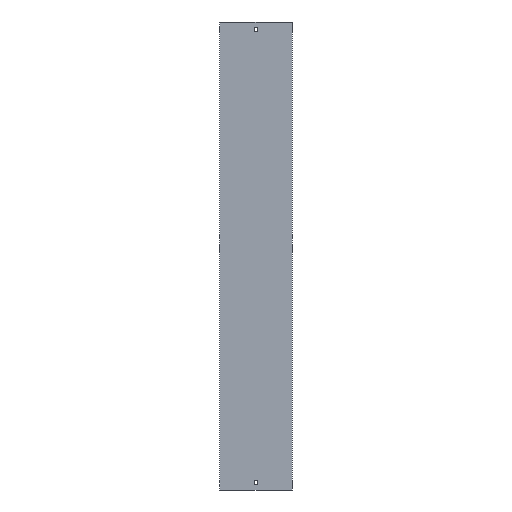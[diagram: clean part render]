
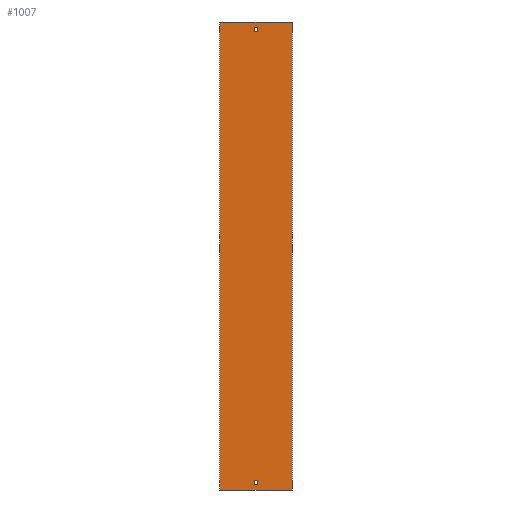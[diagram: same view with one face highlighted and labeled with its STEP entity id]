
A CAD part, front view. The second image highlights one B-rep face of the part: STEP entity #1007.
In plain terms, the highlighted planar face has unit normal (0, -1, 0).
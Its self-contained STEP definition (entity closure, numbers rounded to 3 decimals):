
#14 = VERTEX_POINT ( 'NONE', #1069 ) ;
#26 = VECTOR ( 'NONE', #495, 1000. ) ;
#40 = CARTESIAN_POINT ( 'NONE',  ( 3.25, 0., -479. ) ) ;
#41 = VECTOR ( 'NONE', #1097, 1000. ) ;
#48 = LINE ( 'NONE', #402, #431 ) ;
#55 = EDGE_CURVE ( 'NONE', #254, #964, #318, .T. ) ;
#58 = AXIS2_PLACEMENT_3D ( 'NONE', #342, #354, #503 ) ;
#79 = DIRECTION ( 'NONE',  ( 0., 0., 1. ) ) ;
#90 = LINE ( 'NONE', #618, #207 ) ;
#110 = LINE ( 'NONE', #815, #145 ) ;
#120 = VERTEX_POINT ( 'NONE', #135 ) ;
#123 = EDGE_CURVE ( 'NONE', #770, #896, #48, .T. ) ;
#130 = EDGE_CURVE ( 'NONE', #896, #949, #493, .T. ) ;
#135 = CARTESIAN_POINT ( 'NONE',  ( 77., 0., 500. ) ) ;
#140 = DIRECTION ( 'NONE',  ( -1., 0., 0. ) ) ;
#142 = LINE ( 'NONE', #1093, #727 ) ;
#145 = VECTOR ( 'NONE', #464, 1000. ) ;
#165 = ORIENTED_EDGE ( 'NONE', *, *, #629, .T. ) ;
#173 = CARTESIAN_POINT ( 'NONE',  ( -77., 0., 500. ) ) ;
#207 = VECTOR ( 'NONE', #785, 1000. ) ;
#220 = FACE_BOUND ( 'NONE', #365, .T. ) ;
#226 = ORIENTED_EDGE ( 'NONE', *, *, #55, .T. ) ;
#233 = CARTESIAN_POINT ( 'NONE',  ( -3.25, 0., 488. ) ) ;
#244 = VERTEX_POINT ( 'NONE', #947 ) ;
#246 = CARTESIAN_POINT ( 'NONE',  ( 3.25, 0., 488. ) ) ;
#252 = PLANE ( 'NONE',  #58 ) ;
#254 = VERTEX_POINT ( 'NONE', #953 ) ;
#272 = CARTESIAN_POINT ( 'NONE',  ( -3.25, 0., -488. ) ) ;
#312 = VERTEX_POINT ( 'NONE', #961 ) ;
#316 = LINE ( 'NONE', #664, #26 ) ;
#318 = LINE ( 'NONE', #929, #41 ) ;
#342 = CARTESIAN_POINT ( 'NONE',  ( -77., 0., 500. ) ) ;
#348 = CARTESIAN_POINT ( 'NONE',  ( 3.25, 0., 479. ) ) ;
#354 = DIRECTION ( 'NONE',  ( 0., 1., 0. ) ) ;
#365 = EDGE_LOOP ( 'NONE', ( #712, #460, #413, #978 ) ) ;
#383 = EDGE_CURVE ( 'NONE', #14, #719, #110, .T. ) ;
#402 = CARTESIAN_POINT ( 'NONE',  ( -3.25, 0., 488. ) ) ;
#413 = ORIENTED_EDGE ( 'NONE', *, *, #123, .F. ) ;
#431 = VECTOR ( 'NONE', #140, 1000. ) ;
#443 = VERTEX_POINT ( 'NONE', #722 ) ;
#460 = ORIENTED_EDGE ( 'NONE', *, *, #130, .F. ) ;
#464 = DIRECTION ( 'NONE',  ( 0., 0., -1. ) ) ;
#493 = LINE ( 'NONE', #749, #1008 ) ;
#495 = DIRECTION ( 'NONE',  ( 1., 0., 0. ) ) ;
#503 = DIRECTION ( 'NONE',  ( -1., 0., 0. ) ) ;
#514 = LINE ( 'NONE', #792, #633 ) ;
#569 = EDGE_CURVE ( 'NONE', #949, #1127, #316, .T. ) ;
#592 = EDGE_CURVE ( 'NONE', #312, #443, #688, .T. ) ;
#607 = ORIENTED_EDGE ( 'NONE', *, *, #592, .T. ) ;
#609 = LINE ( 'NONE', #173, #911 ) ;
#618 = CARTESIAN_POINT ( 'NONE',  ( 77., 0., 500. ) ) ;
#629 = EDGE_CURVE ( 'NONE', #964, #312, #514, .T. ) ;
#633 = VECTOR ( 'NONE', #779, 1000. ) ;
#664 = CARTESIAN_POINT ( 'NONE',  ( -3.25, 0., 479. ) ) ;
#666 = CARTESIAN_POINT ( 'NONE',  ( -3.25, 0., 479. ) ) ;
#667 = VECTOR ( 'NONE', #1039, 1000. ) ;
#670 = EDGE_CURVE ( 'NONE', #14, #120, #609, .T. ) ;
#672 = DIRECTION ( 'NONE',  ( 0., 0., -1. ) ) ;
#681 = LINE ( 'NONE', #246, #777 ) ;
#688 = LINE ( 'NONE', #1032, #667 ) ;
#694 = DIRECTION ( 'NONE',  ( 1., 0., 0. ) ) ;
#712 = ORIENTED_EDGE ( 'NONE', *, *, #569, .F. ) ;
#715 = LINE ( 'NONE', #272, #997 ) ;
#719 = VERTEX_POINT ( 'NONE', #898 ) ;
#722 = CARTESIAN_POINT ( 'NONE',  ( -3.25, 0., -488. ) ) ;
#727 = VECTOR ( 'NONE', #752, 1000. ) ;
#728 = CARTESIAN_POINT ( 'NONE',  ( 3.25, 0., 488. ) ) ;
#749 = CARTESIAN_POINT ( 'NONE',  ( -3.25, 0., 488. ) ) ;
#752 = DIRECTION ( 'NONE',  ( 1., 0., 0. ) ) ;
#769 = EDGE_CURVE ( 'NONE', #443, #254, #715, .T. ) ;
#770 = VERTEX_POINT ( 'NONE', #728 ) ;
#777 = VECTOR ( 'NONE', #79, 1000. ) ;
#779 = DIRECTION ( 'NONE',  ( 0., 0., -1. ) ) ;
#785 = DIRECTION ( 'NONE',  ( 0., 0., -1. ) ) ;
#792 = CARTESIAN_POINT ( 'NONE',  ( 3.25, 0., -488. ) ) ;
#815 = CARTESIAN_POINT ( 'NONE',  ( -77., 0., 500. ) ) ;
#890 = EDGE_CURVE ( 'NONE', #719, #244, #142, .T. ) ;
#893 = DIRECTION ( 'NONE',  ( 0., 0., 1. ) ) ;
#896 = VERTEX_POINT ( 'NONE', #233 ) ;
#898 = CARTESIAN_POINT ( 'NONE',  ( -77., 0., -500. ) ) ;
#904 = ORIENTED_EDGE ( 'NONE', *, *, #383, .T. ) ;
#908 = ORIENTED_EDGE ( 'NONE', *, *, #670, .F. ) ;
#911 = VECTOR ( 'NONE', #694, 1000. ) ;
#929 = CARTESIAN_POINT ( 'NONE',  ( -3.25, 0., -479. ) ) ;
#947 = CARTESIAN_POINT ( 'NONE',  ( 77., 0., -500. ) ) ;
#949 = VERTEX_POINT ( 'NONE', #666 ) ;
#953 = CARTESIAN_POINT ( 'NONE',  ( -3.25, 0., -479. ) ) ;
#961 = CARTESIAN_POINT ( 'NONE',  ( 3.25, 0., -488. ) ) ;
#964 = VERTEX_POINT ( 'NONE', #40 ) ;
#965 = ORIENTED_EDGE ( 'NONE', *, *, #769, .T. ) ;
#978 = ORIENTED_EDGE ( 'NONE', *, *, #1098, .F. ) ;
#997 = VECTOR ( 'NONE', #893, 1000. ) ;
#1005 = FACE_OUTER_BOUND ( 'NONE', #1072, .T. ) ;
#1007 = ADVANCED_FACE ( 'NONE', ( #1005, #220, #1047 ), #252, .F. ) ;
#1008 = VECTOR ( 'NONE', #672, 1000. ) ;
#1030 = EDGE_LOOP ( 'NONE', ( #965, #226, #165, #607 ) ) ;
#1032 = CARTESIAN_POINT ( 'NONE',  ( -3.25, 0., -488. ) ) ;
#1039 = DIRECTION ( 'NONE',  ( -1., 0., 0. ) ) ;
#1047 = FACE_BOUND ( 'NONE', #1030, .T. ) ;
#1053 = ORIENTED_EDGE ( 'NONE', *, *, #1060, .F. ) ;
#1060 = EDGE_CURVE ( 'NONE', #120, #244, #90, .T. ) ;
#1069 = CARTESIAN_POINT ( 'NONE',  ( -77., 0., 500. ) ) ;
#1072 = EDGE_LOOP ( 'NONE', ( #1078, #1053, #908, #904 ) ) ;
#1078 = ORIENTED_EDGE ( 'NONE', *, *, #890, .T. ) ;
#1093 = CARTESIAN_POINT ( 'NONE',  ( -77., 0., -500. ) ) ;
#1097 = DIRECTION ( 'NONE',  ( 1., 0., 0. ) ) ;
#1098 = EDGE_CURVE ( 'NONE', #1127, #770, #681, .T. ) ;
#1127 = VERTEX_POINT ( 'NONE', #348 ) ;
